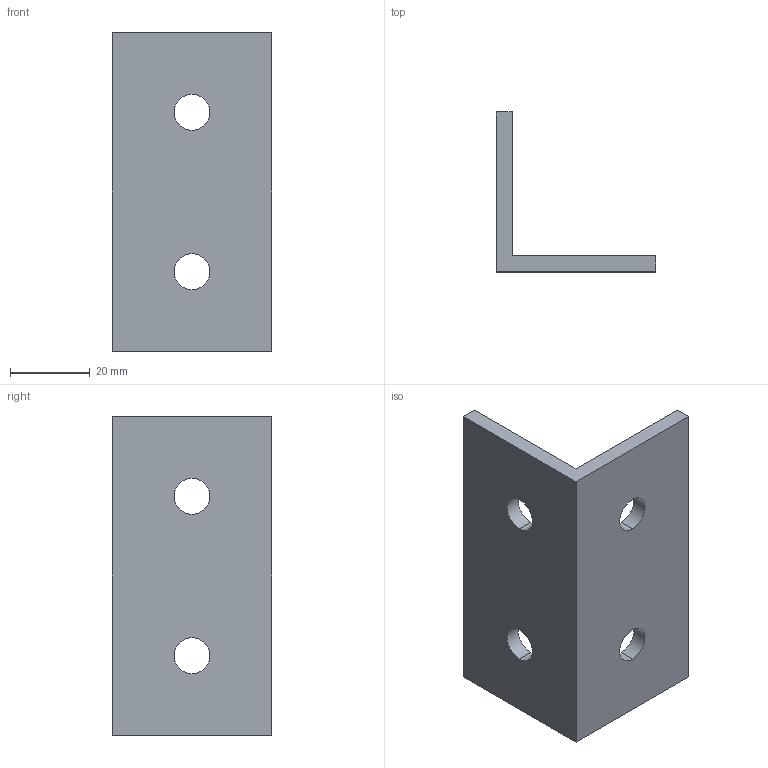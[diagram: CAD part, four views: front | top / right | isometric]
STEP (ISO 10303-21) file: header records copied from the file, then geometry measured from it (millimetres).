
FILE_DESCRIPTION (( 'STEP AP203' ), '1' );
FILE_NAME ('110320 Hoekbeugel verzinkt 80x40x40 (31-05-2021).STEP', '2021-05-31T15:02:57', ( '' ), ( '' ), 'SwSTEP 2.0', 'SolidWorks 2020', '' );
FILE_SCHEMA (( 'CONFIG_CONTROL_DESIGN' ));
Length unit declared in the file: millimetre
Products named in the file (1): 110320 Hoekbeugel verzinkt 80x40x40 (31-05-2021)
Bounding box: 40 x 40 x 80 mm (x, y, z)
Volume: 23302.1 mm3; surface area: 13351.5 mm2
Topology: 1 solids, 1 shells, 16 faces, 42 edges, 28 vertices
Faces by surface type: cylinder 8, plane 8
Entity records: 595 total; most frequent: DIRECTION 92, CARTESIAN_POINT 87, ORIENTED_EDGE 84, EDGE_CURVE 42, AXIS2_PLACEMENT_3D 33, VERTEX_POINT 28, VECTOR 26, LINE 26
